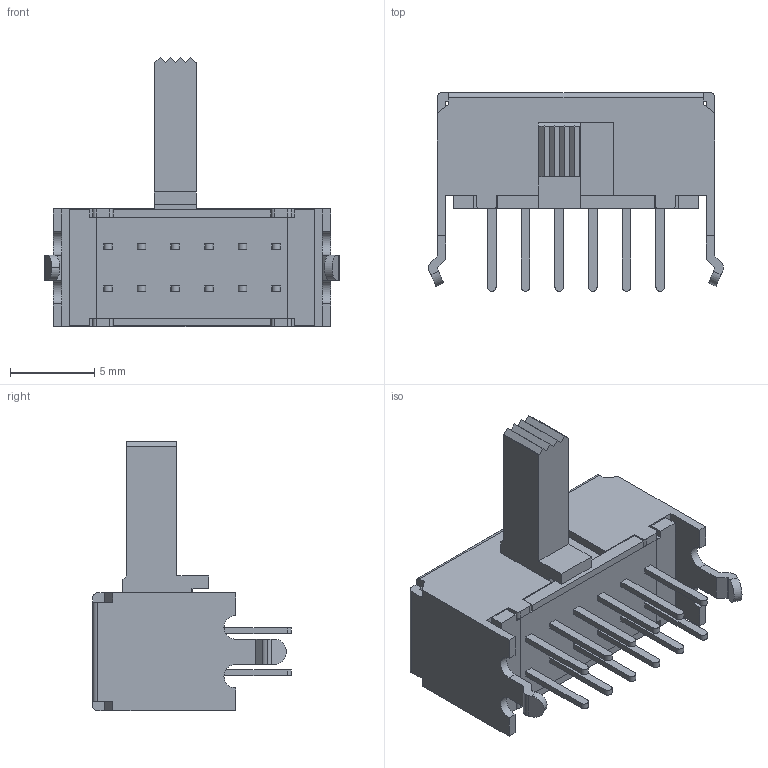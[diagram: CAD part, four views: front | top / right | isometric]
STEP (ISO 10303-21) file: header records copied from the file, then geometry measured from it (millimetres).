
FILE_DESCRIPTION (( 'STEP AP214' ), '1' );
FILE_NAME ('SSSF141300.STEP', '2011-04-04T06:05:40', ( '' ), ( '' ), 'SwSTEP 2.0', 'SolidWorks 2007', '' );
FILE_SCHEMA (( 'AUTOMOTIVE_DESIGN' ));
Length unit declared in the file: millimetre
Products named in the file (1): SSSF141300
Bounding box: 17.52 x 11.8 x 16 mm (x, y, z)
Volume: 878.4 mm3; surface area: 871.3 mm2
Topology: 1 solids, 1 shells, 192 faces, 526 edges, 344 vertices
Faces by surface type: plane 155, cylinder 37
Entity records: 7256 total; most frequent: CARTESIAN_POINT 1063, ORIENTED_EDGE 1052, DIRECTION 986, EDGE_CURVE 526, VECTOR 452, LINE 452, VERTEX_POINT 344, AXIS2_PLACEMENT_3D 267
